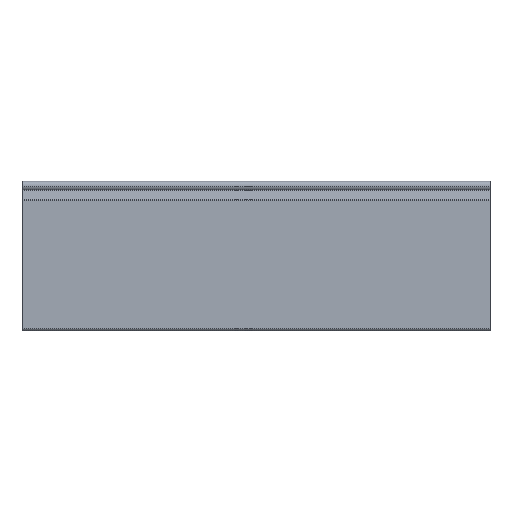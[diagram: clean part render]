
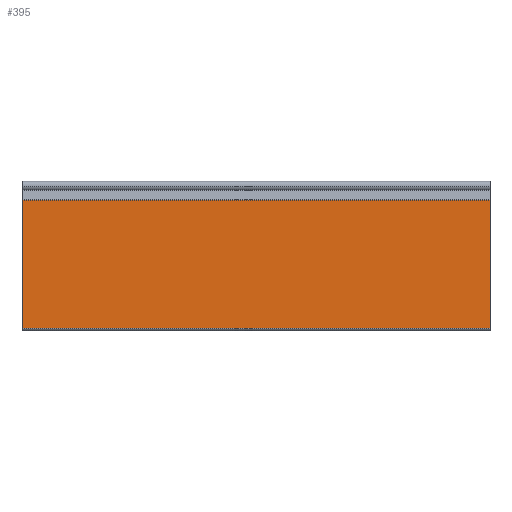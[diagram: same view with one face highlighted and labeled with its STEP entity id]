
A CAD part, top view. The second image highlights one B-rep face of the part: STEP entity #395.
In plain terms, the highlighted planar face has unit normal (0, 0, 1).
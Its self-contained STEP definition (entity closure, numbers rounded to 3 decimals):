
#47 = LINE ( 'NONE', #859, #50 ) ;
#50 = VECTOR ( 'NONE', #862, 1000. ) ;
#72 = LINE ( 'NONE', #1074, #73 ) ;
#73 = VECTOR ( 'NONE', #1075, 1000. ) ;
#82 = LINE ( 'NONE', #1084, #83 ) ;
#83 = VECTOR ( 'NONE', #1085, 1000. ) ;
#129 = FACE_OUTER_BOUND ( 'NONE', #1023, .T. ) ;
#199 = EDGE_CURVE ( 'NONE', #633, #618, #517, .T. ) ;
#257 = EDGE_CURVE ( 'NONE', #652, #593, #47, .T. ) ;
#269 = EDGE_CURVE ( 'NONE', #633, #652, #72, .T. ) ;
#274 = EDGE_CURVE ( 'NONE', #618, #593, #82, .T. ) ;
#338 = AXIS2_PLACEMENT_3D ( 'NONE', #1181, #1190, #1191 ) ;
#395 = ADVANCED_FACE ( 'NONE', ( #129 ), #1178, .F. ) ;
#506 = VECTOR ( 'NONE', #721, 1000. ) ;
#517 = LINE ( 'NONE', #708, #506 ) ;
#593 = VERTEX_POINT ( 'NONE', #1239 ) ;
#618 = VERTEX_POINT ( 'NONE', #1270 ) ;
#633 = VERTEX_POINT ( 'NONE', #1285 ) ;
#652 = VERTEX_POINT ( 'NONE', #1304 ) ;
#708 = CARTESIAN_POINT ( 'NONE',  ( 200., -12.164, 4.05 ) ) ;
#721 = DIRECTION ( 'NONE',  ( 0., -1., 0. ) ) ;
#859 = CARTESIAN_POINT ( 'NONE',  ( -200., -12.164, 4.05 ) ) ;
#862 = DIRECTION ( 'NONE',  ( 0., -1., 0. ) ) ;
#931 = ORIENTED_EDGE ( 'NONE', *, *, #269, .T. ) ;
#933 = ORIENTED_EDGE ( 'NONE', *, *, #199, .F. ) ;
#934 = ORIENTED_EDGE ( 'NONE', *, *, #274, .F. ) ;
#935 = ORIENTED_EDGE ( 'NONE', *, *, #257, .T. ) ;
#1023 = EDGE_LOOP ( 'NONE', ( #935, #934, #933, #931 ) ) ;
#1074 = CARTESIAN_POINT ( 'NONE',  ( 200., -12.164, 4.05 ) ) ;
#1075 = DIRECTION ( 'NONE',  ( -1., 0., 0. ) ) ;
#1084 = CARTESIAN_POINT ( 'NONE',  ( 200., -121.663, 4.05 ) ) ;
#1085 = DIRECTION ( 'NONE',  ( -1., 0., 0. ) ) ;
#1178 = PLANE ( 'NONE',  #338 ) ;
#1181 = CARTESIAN_POINT ( 'NONE',  ( 200., -12.164, 4.05 ) ) ;
#1190 = DIRECTION ( 'NONE',  ( 0., 0., -1. ) ) ;
#1191 = DIRECTION ( 'NONE',  ( 0., 1., 0. ) ) ;
#1239 = CARTESIAN_POINT ( 'NONE',  ( -200., -121.663, 4.05 ) ) ;
#1270 = CARTESIAN_POINT ( 'NONE',  ( 200., -121.663, 4.05 ) ) ;
#1285 = CARTESIAN_POINT ( 'NONE',  ( 200., -12.164, 4.05 ) ) ;
#1304 = CARTESIAN_POINT ( 'NONE',  ( -200., -12.164, 4.05 ) ) ;
